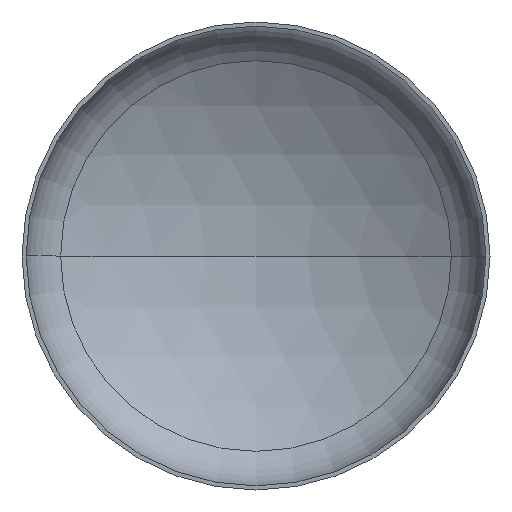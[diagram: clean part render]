
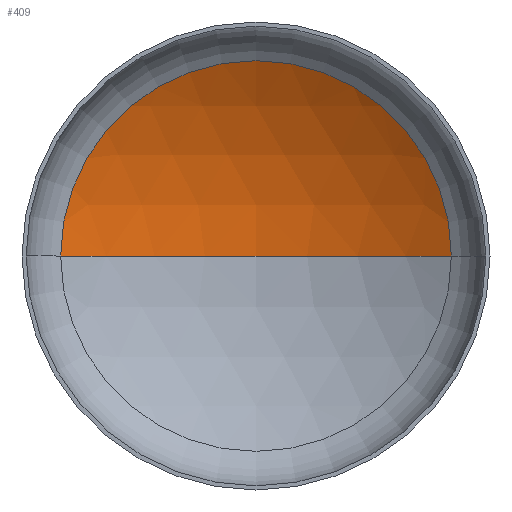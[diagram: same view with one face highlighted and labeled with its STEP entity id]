
A CAD part, front view. The second image highlights one B-rep face of the part: STEP entity #409.
In plain terms, the highlighted spherical face has radius 3040 mm.
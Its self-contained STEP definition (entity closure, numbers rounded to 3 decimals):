
#11 = ORIENTED_EDGE ( 'NONE', *, *, #353, .T. ) ;
#18 = EDGE_LOOP ( 'NONE', ( #92, #11, #79 ) ) ;
#19 = AXIS2_PLACEMENT_3D ( 'NONE', #344, #191, #291 ) ;
#27 = AXIS2_PLACEMENT_3D ( 'NONE', #172, #295, #149 ) ;
#79 = ORIENTED_EDGE ( 'NONE', *, *, #351, .T. ) ;
#80 = VERTEX_POINT ( 'NONE', #269 ) ;
#81 = VERTEX_POINT ( 'NONE', #365 ) ;
#82 = DIRECTION ( 'NONE',  ( 0., 0., -1. ) ) ;
#92 = ORIENTED_EDGE ( 'NONE', *, *, #389, .F. ) ;
#118 = CIRCLE ( 'NONE', #176, 3040. ) ;
#145 = VERTEX_POINT ( 'NONE', #321 ) ;
#149 = DIRECTION ( 'NONE',  ( 1., 0., 0. ) ) ;
#151 = DIRECTION ( 'NONE',  ( -1., 0., 0. ) ) ;
#172 = CARTESIAN_POINT ( 'NONE',  ( 0., 609.047, 0. ) ) ;
#175 = DIRECTION ( 'NONE',  ( 1., 0., 0. ) ) ;
#176 = AXIS2_PLACEMENT_3D ( 'NONE', #227, #320, #175 ) ;
#190 = FACE_OUTER_BOUND ( 'NONE', #18, .T. ) ;
#191 = DIRECTION ( 'NONE',  ( 0., 0., -1. ) ) ;
#215 = CIRCLE ( 'NONE', #27, 1586.248 ) ;
#227 = CARTESIAN_POINT ( 'NONE',  ( 0., -1984.293, 0. ) ) ;
#242 = AXIS2_PLACEMENT_3D ( 'NONE', #349, #82, #151 ) ;
#269 = CARTESIAN_POINT ( 'NONE',  ( 0., 1055.707, 0. ) ) ;
#277 = CIRCLE ( 'NONE', #19, 3040. ) ;
#291 = DIRECTION ( 'NONE',  ( -1., 0., 0. ) ) ;
#295 = DIRECTION ( 'NONE',  ( 0., -1., 0. ) ) ;
#320 = DIRECTION ( 'NONE',  ( 0., 0., 1. ) ) ;
#321 = CARTESIAN_POINT ( 'NONE',  ( 1586.248, 609.047, 0. ) ) ;
#344 = CARTESIAN_POINT ( 'NONE',  ( 0., -1984.293, 0. ) ) ;
#349 = CARTESIAN_POINT ( 'NONE',  ( 0., -1984.293, 0. ) ) ;
#351 = EDGE_CURVE ( 'NONE', #145, #81, #215, .T. ) ;
#353 = EDGE_CURVE ( 'NONE', #80, #145, #277, .T. ) ;
#365 = CARTESIAN_POINT ( 'NONE',  ( -1586.248, 609.047, 0. ) ) ;
#378 = SPHERICAL_SURFACE ( 'NONE', #242, 3040. ) ;
#389 = EDGE_CURVE ( 'NONE', #80, #81, #118, .T. ) ;
#409 = ADVANCED_FACE ( 'NONE', ( #190 ), #378, .F. ) ;
